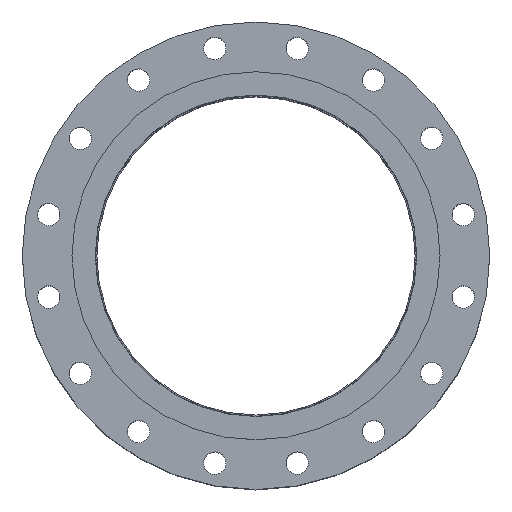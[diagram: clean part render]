
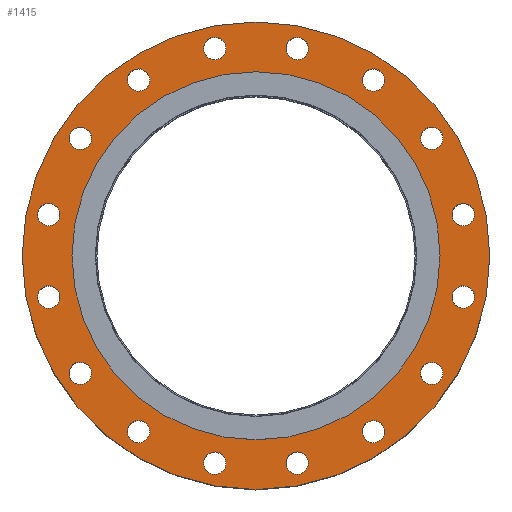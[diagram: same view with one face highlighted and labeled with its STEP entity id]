
A CAD part, top view. The second image highlights one B-rep face of the part: STEP entity #1415.
In plain terms, the highlighted planar face has unit normal (0, 0, 1).
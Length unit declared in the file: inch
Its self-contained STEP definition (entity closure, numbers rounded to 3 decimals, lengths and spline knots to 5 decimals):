
#92=FACE_BOUND('',#371,.T.);
#93=FACE_BOUND('',#372,.T.);
#94=FACE_BOUND('',#373,.T.);
#95=FACE_BOUND('',#374,.T.);
#96=FACE_BOUND('',#375,.T.);
#97=FACE_BOUND('',#376,.T.);
#98=FACE_BOUND('',#377,.T.);
#99=FACE_BOUND('',#378,.T.);
#100=FACE_BOUND('',#379,.T.);
#101=FACE_BOUND('',#380,.T.);
#102=FACE_BOUND('',#381,.T.);
#103=FACE_BOUND('',#382,.T.);
#104=FACE_BOUND('',#383,.T.);
#105=FACE_BOUND('',#384,.T.);
#106=FACE_BOUND('',#385,.T.);
#107=FACE_BOUND('',#386,.T.);
#108=FACE_BOUND('',#387,.T.);
#150=PLANE('',#1612);
#249=FACE_OUTER_BOUND('',#370,.T.);
#370=EDGE_LOOP('',(#1117));
#371=EDGE_LOOP('',(#1118));
#372=EDGE_LOOP('',(#1119));
#373=EDGE_LOOP('',(#1120));
#374=EDGE_LOOP('',(#1121));
#375=EDGE_LOOP('',(#1122));
#376=EDGE_LOOP('',(#1123));
#377=EDGE_LOOP('',(#1124));
#378=EDGE_LOOP('',(#1125));
#379=EDGE_LOOP('',(#1126));
#380=EDGE_LOOP('',(#1127));
#381=EDGE_LOOP('',(#1128));
#382=EDGE_LOOP('',(#1129));
#383=EDGE_LOOP('',(#1130));
#384=EDGE_LOOP('',(#1131));
#385=EDGE_LOOP('',(#1132));
#386=EDGE_LOOP('',(#1133));
#387=EDGE_LOOP('',(#1134));
#551=CIRCLE('',#1543,0.5625);
#553=CIRCLE('',#1546,0.5625);
#555=CIRCLE('',#1549,0.5625);
#557=CIRCLE('',#1552,0.5625);
#559=CIRCLE('',#1555,0.5625);
#561=CIRCLE('',#1558,0.5625);
#563=CIRCLE('',#1561,0.5625);
#565=CIRCLE('',#1564,0.5625);
#567=CIRCLE('',#1567,0.5625);
#569=CIRCLE('',#1570,0.5625);
#571=CIRCLE('',#1573,0.5625);
#573=CIRCLE('',#1576,0.5625);
#575=CIRCLE('',#1579,0.5625);
#577=CIRCLE('',#1582,0.5625);
#579=CIRCLE('',#1585,0.5625);
#581=CIRCLE('',#1588,0.5625);
#594=CIRCLE('',#1607,9.25);
#596=CIRCLE('',#1611,11.75);
#707=VERTEX_POINT('',#2398);
#709=VERTEX_POINT('',#2404);
#711=VERTEX_POINT('',#2410);
#713=VERTEX_POINT('',#2416);
#715=VERTEX_POINT('',#2422);
#717=VERTEX_POINT('',#2428);
#719=VERTEX_POINT('',#2434);
#721=VERTEX_POINT('',#2440);
#723=VERTEX_POINT('',#2446);
#725=VERTEX_POINT('',#2452);
#727=VERTEX_POINT('',#2458);
#729=VERTEX_POINT('',#2464);
#731=VERTEX_POINT('',#2470);
#733=VERTEX_POINT('',#2476);
#735=VERTEX_POINT('',#2482);
#737=VERTEX_POINT('',#2488);
#748=VERTEX_POINT('',#2520);
#750=VERTEX_POINT('',#2527);
#827=EDGE_CURVE('',#707,#707,#551,.T.);
#830=EDGE_CURVE('',#709,#709,#553,.T.);
#833=EDGE_CURVE('',#711,#711,#555,.T.);
#836=EDGE_CURVE('',#713,#713,#557,.T.);
#839=EDGE_CURVE('',#715,#715,#559,.T.);
#842=EDGE_CURVE('',#717,#717,#561,.T.);
#845=EDGE_CURVE('',#719,#719,#563,.T.);
#848=EDGE_CURVE('',#721,#721,#565,.T.);
#851=EDGE_CURVE('',#723,#723,#567,.T.);
#854=EDGE_CURVE('',#725,#725,#569,.T.);
#857=EDGE_CURVE('',#727,#727,#571,.T.);
#860=EDGE_CURVE('',#729,#729,#573,.T.);
#863=EDGE_CURVE('',#731,#731,#575,.T.);
#866=EDGE_CURVE('',#733,#733,#577,.T.);
#869=EDGE_CURVE('',#735,#735,#579,.T.);
#872=EDGE_CURVE('',#737,#737,#581,.T.);
#888=EDGE_CURVE('',#748,#748,#594,.T.);
#890=EDGE_CURVE('',#750,#750,#596,.T.);
#1117=ORIENTED_EDGE('',*,*,#890,.T.);
#1118=ORIENTED_EDGE('',*,*,#827,.T.);
#1119=ORIENTED_EDGE('',*,*,#830,.T.);
#1120=ORIENTED_EDGE('',*,*,#833,.T.);
#1121=ORIENTED_EDGE('',*,*,#836,.T.);
#1122=ORIENTED_EDGE('',*,*,#839,.T.);
#1123=ORIENTED_EDGE('',*,*,#842,.T.);
#1124=ORIENTED_EDGE('',*,*,#845,.T.);
#1125=ORIENTED_EDGE('',*,*,#848,.T.);
#1126=ORIENTED_EDGE('',*,*,#851,.T.);
#1127=ORIENTED_EDGE('',*,*,#854,.T.);
#1128=ORIENTED_EDGE('',*,*,#857,.T.);
#1129=ORIENTED_EDGE('',*,*,#860,.T.);
#1130=ORIENTED_EDGE('',*,*,#863,.T.);
#1131=ORIENTED_EDGE('',*,*,#866,.T.);
#1132=ORIENTED_EDGE('',*,*,#869,.T.);
#1133=ORIENTED_EDGE('',*,*,#872,.T.);
#1134=ORIENTED_EDGE('',*,*,#888,.T.);
#1415=ADVANCED_FACE('',(#249,#92,#93,#94,#95,#96,#97,#98,#99,#100,#101,
#102,#103,#104,#105,#106,#107,#108),#150,.T.);
#1543=AXIS2_PLACEMENT_3D('',#2399,#1823,#1824);
#1546=AXIS2_PLACEMENT_3D('',#2405,#1830,#1831);
#1549=AXIS2_PLACEMENT_3D('',#2411,#1837,#1838);
#1552=AXIS2_PLACEMENT_3D('',#2417,#1844,#1845);
#1555=AXIS2_PLACEMENT_3D('',#2423,#1851,#1852);
#1558=AXIS2_PLACEMENT_3D('',#2429,#1858,#1859);
#1561=AXIS2_PLACEMENT_3D('',#2435,#1865,#1866);
#1564=AXIS2_PLACEMENT_3D('',#2441,#1872,#1873);
#1567=AXIS2_PLACEMENT_3D('',#2447,#1879,#1880);
#1570=AXIS2_PLACEMENT_3D('',#2453,#1886,#1887);
#1573=AXIS2_PLACEMENT_3D('',#2459,#1893,#1894);
#1576=AXIS2_PLACEMENT_3D('',#2465,#1900,#1901);
#1579=AXIS2_PLACEMENT_3D('',#2471,#1907,#1908);
#1582=AXIS2_PLACEMENT_3D('',#2477,#1914,#1915);
#1585=AXIS2_PLACEMENT_3D('',#2483,#1921,#1922);
#1588=AXIS2_PLACEMENT_3D('',#2489,#1928,#1929);
#1607=AXIS2_PLACEMENT_3D('',#2522,#1969,#1970);
#1611=AXIS2_PLACEMENT_3D('',#2528,#1977,#1978);
#1612=AXIS2_PLACEMENT_3D('',#2530,#1980,#1981);
#1823=DIRECTION('center_axis',(0.,0.,-1.));
#1824=DIRECTION('ref_axis',(0.924,-0.383,0.));
#1830=DIRECTION('center_axis',(0.,0.,-1.));
#1831=DIRECTION('ref_axis',(0.707,-0.707,0.));
#1837=DIRECTION('center_axis',(0.,0.,-1.));
#1838=DIRECTION('ref_axis',(0.383,-0.924,0.));
#1844=DIRECTION('center_axis',(0.,0.,-1.));
#1845=DIRECTION('ref_axis',(0.,-1.,0.));
#1851=DIRECTION('center_axis',(0.,0.,-1.));
#1852=DIRECTION('ref_axis',(-0.383,-0.924,0.));
#1858=DIRECTION('center_axis',(0.,0.,-1.));
#1859=DIRECTION('ref_axis',(-0.707,-0.707,0.));
#1865=DIRECTION('center_axis',(0.,0.,-1.));
#1866=DIRECTION('ref_axis',(-0.924,-0.383,0.));
#1872=DIRECTION('center_axis',(0.,0.,-1.));
#1873=DIRECTION('ref_axis',(-1.,0.,0.));
#1879=DIRECTION('center_axis',(0.,0.,-1.));
#1880=DIRECTION('ref_axis',(-0.924,0.383,0.));
#1886=DIRECTION('center_axis',(0.,0.,-1.));
#1887=DIRECTION('ref_axis',(-0.707,0.707,0.));
#1893=DIRECTION('center_axis',(0.,0.,-1.));
#1894=DIRECTION('ref_axis',(-0.383,0.924,0.));
#1900=DIRECTION('center_axis',(0.,0.,-1.));
#1901=DIRECTION('ref_axis',(0.,1.,0.));
#1907=DIRECTION('center_axis',(0.,0.,-1.));
#1908=DIRECTION('ref_axis',(0.383,0.924,0.));
#1914=DIRECTION('center_axis',(0.,0.,-1.));
#1915=DIRECTION('ref_axis',(0.707,0.707,0.));
#1921=DIRECTION('center_axis',(0.,0.,-1.));
#1922=DIRECTION('ref_axis',(0.924,0.383,0.));
#1928=DIRECTION('center_axis',(0.,0.,-1.));
#1929=DIRECTION('ref_axis',(1.,0.,0.));
#1969=DIRECTION('center_axis',(0.,0.,-1.));
#1970=DIRECTION('ref_axis',(0.,1.,0.));
#1977=DIRECTION('center_axis',(0.,0.,1.));
#1978=DIRECTION('ref_axis',(1.,0.,0.));
#1980=DIRECTION('center_axis',(0.,0.,1.));
#1981=DIRECTION('ref_axis',(1.,0.,0.));
#2398=CARTESIAN_POINT('',(1.55315,10.6361,0.69));
#2399=CARTESIAN_POINT('Origin',(2.07283,10.42084,0.69));
#2404=CARTESIAN_POINT('',(5.50519,9.23211,0.69));
#2405=CARTESIAN_POINT('Origin',(5.90293,8.83436,0.69));
#2410=CARTESIAN_POINT('',(8.61911,6.42262,0.69));
#2411=CARTESIAN_POINT('Origin',(8.83436,5.90293,0.69));
#2416=CARTESIAN_POINT('',(10.42084,2.63533,0.69));
#2417=CARTESIAN_POINT('Origin',(10.42084,2.07283,0.69));
#2422=CARTESIAN_POINT('',(10.6361,-1.55315,0.69));
#2423=CARTESIAN_POINT('Origin',(10.42084,-2.07283,0.69));
#2428=CARTESIAN_POINT('',(9.23211,-5.50519,0.69));
#2429=CARTESIAN_POINT('Origin',(8.83436,-5.90293,0.69));
#2434=CARTESIAN_POINT('',(6.42262,-8.61911,0.69));
#2435=CARTESIAN_POINT('Origin',(5.90293,-8.83436,0.69));
#2440=CARTESIAN_POINT('',(2.63533,-10.42084,0.69));
#2441=CARTESIAN_POINT('Origin',(2.07283,-10.42084,0.69));
#2446=CARTESIAN_POINT('',(-1.55315,-10.6361,0.69));
#2447=CARTESIAN_POINT('Origin',(-2.07283,-10.42084,0.69));
#2452=CARTESIAN_POINT('',(-5.50519,-9.23211,0.69));
#2453=CARTESIAN_POINT('Origin',(-5.90293,-8.83436,0.69));
#2458=CARTESIAN_POINT('',(-8.61911,-6.42262,0.69));
#2459=CARTESIAN_POINT('Origin',(-8.83436,-5.90293,0.69));
#2464=CARTESIAN_POINT('',(-10.42084,-2.63533,0.69));
#2465=CARTESIAN_POINT('Origin',(-10.42084,-2.07283,0.69));
#2470=CARTESIAN_POINT('',(-10.6361,1.55315,0.69));
#2471=CARTESIAN_POINT('Origin',(-10.42084,2.07283,0.69));
#2476=CARTESIAN_POINT('',(-9.23211,5.50519,0.69));
#2477=CARTESIAN_POINT('Origin',(-8.83436,5.90293,0.69));
#2482=CARTESIAN_POINT('',(-6.42262,8.61911,0.69));
#2483=CARTESIAN_POINT('Origin',(-5.90293,8.83436,0.69));
#2488=CARTESIAN_POINT('',(-2.63533,10.42084,0.69));
#2489=CARTESIAN_POINT('Origin',(-2.07283,10.42084,0.69));
#2520=CARTESIAN_POINT('',(0.,-9.25,0.69));
#2522=CARTESIAN_POINT('Origin',(0.,0.,0.69));
#2527=CARTESIAN_POINT('',(0.,-11.75,0.69));
#2528=CARTESIAN_POINT('Origin',(0.,0.,0.69));
#2530=CARTESIAN_POINT('Origin',(0.,8.08,0.69));
